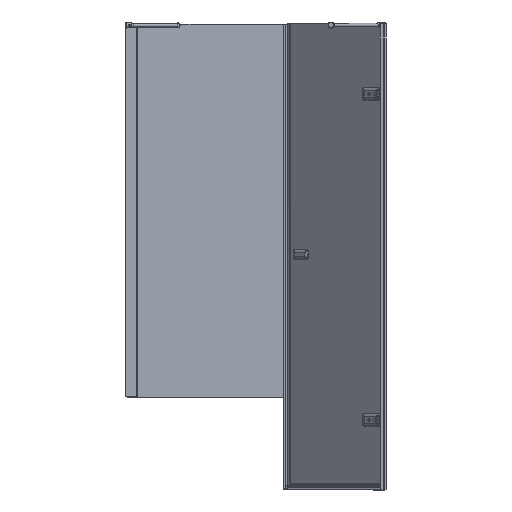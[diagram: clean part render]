
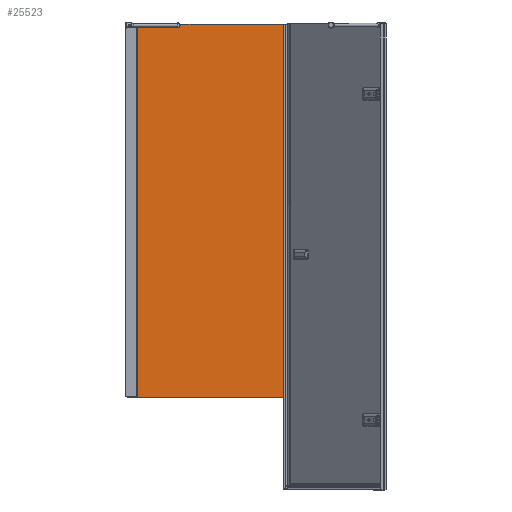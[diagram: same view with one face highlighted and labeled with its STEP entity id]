
A CAD part, left-side view. The second image highlights one B-rep face of the part: STEP entity #25523.
In plain terms, the highlighted planar face has unit normal (-1, 0, 0).
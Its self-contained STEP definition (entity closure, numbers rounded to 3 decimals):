
#1828=LINE($,#57665,#4014);
#1891=LINE($,#57941,#4077);
#2027=LINE($,#58286,#4213);
#2028=LINE($,#58288,#4214);
#2029=LINE($,#58290,#4215);
#2030=LINE($,#58292,#4216);
#2031=LINE($,#58293,#4217);
#4014=VECTOR($,#33102,442.874);
#4077=VECTOR($,#33295,1601.);
#4213=VECTOR($,#33525,162.716);
#4214=VECTOR($,#33526,1600.);
#4215=VECTOR($,#33527,45.);
#4216=VECTOR($,#33528,1.);
#4217=VECTOR($,#33529,668.451);
#6545=FACE_OUTER_BOUND($,#7992,.T.);
#7992=EDGE_LOOP($,(#20580,#20581,#20582,#20583,#20584,#20585,#20586,#20587));
#9139=CIRCLE($,#27591,10.);
#10982=VERTEX_POINT($,#57615);
#10983=VERTEX_POINT($,#57616);
#10996=VERTEX_POINT($,#57664);
#11037=VERTEX_POINT($,#57822);
#11212=VERTEX_POINT($,#58285);
#11213=VERTEX_POINT($,#58287);
#11214=VERTEX_POINT($,#58289);
#11215=VERTEX_POINT($,#58291);
#14192=EDGE_CURVE($,#10982,#10983,#9139,.T.);
#14215=EDGE_CURVE($,#10982,#10996,#1828,.T.);
#14325=EDGE_CURVE($,#11037,#10996,#1891,.T.);
#14490=EDGE_CURVE($,#11212,#10983,#2027,.T.);
#14491=EDGE_CURVE($,#11212,#11213,#2028,.T.);
#14492=EDGE_CURVE($,#11214,#11213,#2029,.T.);
#14493=EDGE_CURVE($,#11214,#11215,#2030,.T.);
#14494=EDGE_CURVE($,#11215,#11037,#2031,.T.);
#20580=ORIENTED_EDGE($,*,*,#14192,.T.);
#20581=ORIENTED_EDGE($,*,*,#14490,.F.);
#20582=ORIENTED_EDGE($,*,*,#14491,.T.);
#20583=ORIENTED_EDGE($,*,*,#14492,.F.);
#20584=ORIENTED_EDGE($,*,*,#14493,.T.);
#20585=ORIENTED_EDGE($,*,*,#14494,.T.);
#20586=ORIENTED_EDGE($,*,*,#14325,.T.);
#20587=ORIENTED_EDGE($,*,*,#14215,.F.);
#23005=PLANE($,#27720);
#25523=ADVANCED_FACE($,(#6545),#23005,.T.);
#27591=AXIS2_PLACEMENT_3D($,#57617,#33049,#33050);
#27720=AXIS2_PLACEMENT_3D($,#58284,#33523,#33524);
#33049=DIRECTION('center_axis',(1.,0.,0.));
#33050=DIRECTION('ref_axis',(0.,-1.,0.));
#33102=DIRECTION($,(0.,-1.,0.));
#33295=DIRECTION($,(0.,0.,1.));
#33523=DIRECTION('center_axis',(-1.,0.,0.));
#33524=DIRECTION('ref_axis',(0.,-1.,0.));
#33525=DIRECTION($,(0.,-1.,0.));
#33526=DIRECTION($,(0.,0.,-1.));
#33527=DIRECTION($,(0.,-1.,0.));
#33528=DIRECTION($,(0.,0.,-1.));
#33529=DIRECTION($,(0.,-1.,0.));
#57615=CARTESIAN_POINT('',(1204.569,713.379,1584.944));
#57616=CARTESIAN_POINT('',(1204.569,731.24,1584.944));
#57617=CARTESIAN_POINT('Origin',(1204.569,722.309,1580.444));
#57664=CARTESIAN_POINT('',(1204.569,270.505,1584.944));
#57665=CARTESIAN_POINT($,(1204.569,938.956,1584.944));
#57822=CARTESIAN_POINT('',(1204.569,270.505,-16.056));
#57941=CARTESIAN_POINT($,(1204.569,270.505,-410.056));
#58284=CARTESIAN_POINT('Origin',(1204.569,938.956,-15.056));
#58285=CARTESIAN_POINT('',(1204.569,893.956,1584.944));
#58286=CARTESIAN_POINT($,(1204.569,938.956,1584.944));
#58287=CARTESIAN_POINT('',(1204.569,893.956,-15.056));
#58288=CARTESIAN_POINT($,(1204.569,893.956,784.944));
#58289=CARTESIAN_POINT('',(1204.569,938.956,-15.056));
#58290=CARTESIAN_POINT($,(1204.569,765.706,-15.056));
#58291=CARTESIAN_POINT('',(1204.569,938.956,-16.056));
#58292=CARTESIAN_POINT($,(1204.569,938.956,-15.056));
#58293=CARTESIAN_POINT($,(1204.569,938.956,-16.056));
